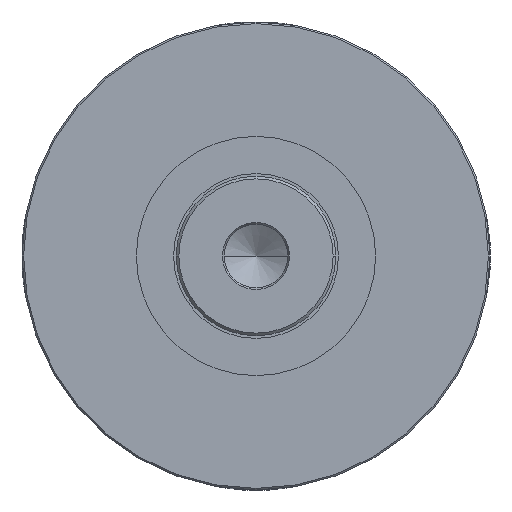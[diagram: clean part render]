
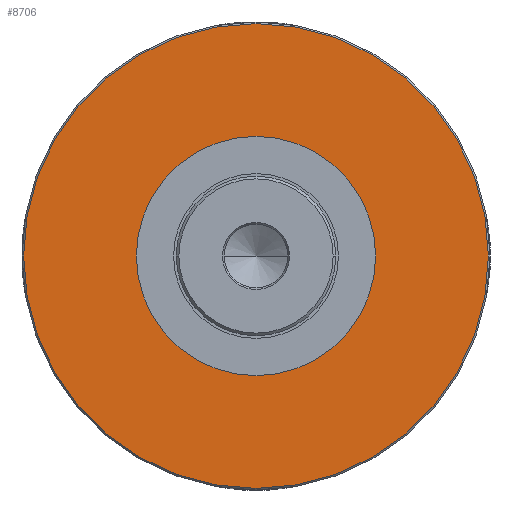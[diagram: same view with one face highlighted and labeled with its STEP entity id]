
A CAD part, left-side view. The second image highlights one B-rep face of the part: STEP entity #8706.
In plain terms, the highlighted planar face has unit normal (-1, 0, 0).
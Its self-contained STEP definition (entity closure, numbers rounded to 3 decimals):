
#8129=CARTESIAN_POINT('',(-26.5,0.,0.));
#8130=DIRECTION('',(-1.,0.,0.));
#8131=DIRECTION('',(0.,1.,0.));
#8132=AXIS2_PLACEMENT_3D('',#8129,#8130,#8131);
#8144=CARTESIAN_POINT('',(-26.5,0.,0.));
#8145=DIRECTION('',(1.,0.,0.));
#8146=DIRECTION('',(0.,1.,0.));
#8147=AXIS2_PLACEMENT_3D('',#8144,#8145,#8146);
#8159=CARTESIAN_POINT('',(-26.5,0.,0.));
#8160=DIRECTION('',(-1.,0.,0.));
#8161=DIRECTION('',(0.,1.,0.));
#8162=AXIS2_PLACEMENT_3D('',#8159,#8160,#8161);
#8167=CARTESIAN_POINT('',(-26.5,0.,0.));
#8168=DIRECTION('',(1.,0.,0.));
#8169=DIRECTION('',(0.,1.,0.));
#8170=AXIS2_PLACEMENT_3D('',#8167,#8168,#8169);
#8585=CARTESIAN_POINT('',(-26.5,22.501,0.));
#8587=VERTEX_POINT('',#8585);
#8589=CARTESIAN_POINT('',(-26.5,-22.501,0.));
#8591=VERTEX_POINT('',#8589);
#8603=CARTESIAN_POINT('',(-26.5,43.7,0.));
#8604=VERTEX_POINT('',#8603);
#8615=CARTESIAN_POINT('',(-26.5,-43.7,0.));
#8616=VERTEX_POINT('',#8615);
#8691=CARTESIAN_POINT('',(-26.5,0.,0.));
#8692=DIRECTION('',(-1.,0.,0.));
#8693=DIRECTION('',(0.,1.,0.));
#8694=AXIS2_PLACEMENT_3D('',#8691,#8692,#8693);
#8695=PLANE('',#8694);
#8697=ORIENTED_EDGE('',*,*,#8696,.F.);
#8699=ORIENTED_EDGE('',*,*,#8698,.T.);
#8700=EDGE_LOOP('',(#8697,#8699));
#8701=FACE_OUTER_BOUND('',#8700,.F.);
#8702=ORIENTED_EDGE('',*,*,#8684,.F.);
#8703=ORIENTED_EDGE('',*,*,#8673,.T.);
#8704=EDGE_LOOP('',(#8702,#8703));
#8705=FACE_BOUND('',#8704,.F.);
#8133=CIRCLE('',#8132,22.501);
#8148=CIRCLE('',#8147,22.501);
#8163=CIRCLE('',#8162,43.7);
#8171=CIRCLE('',#8170,43.7);
#8673=EDGE_CURVE('',#8587,#8591,#8133,.T.);
#8684=EDGE_CURVE('',#8587,#8591,#8148,.T.);
#8696=EDGE_CURVE('',#8604,#8616,#8163,.T.);
#8698=EDGE_CURVE('',#8604,#8616,#8171,.T.);
#8706=ADVANCED_FACE('',(#8701,#8705),#8695,.T.);
